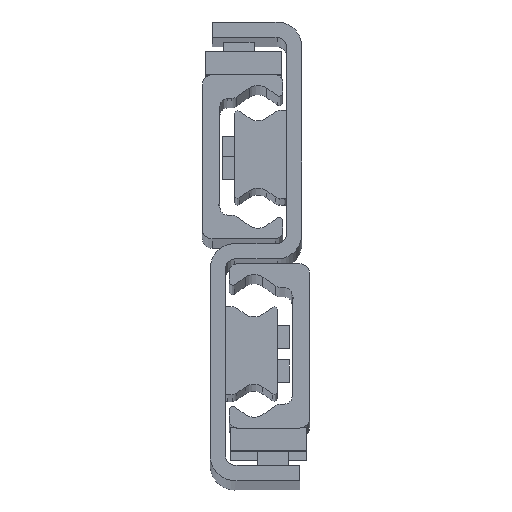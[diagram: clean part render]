
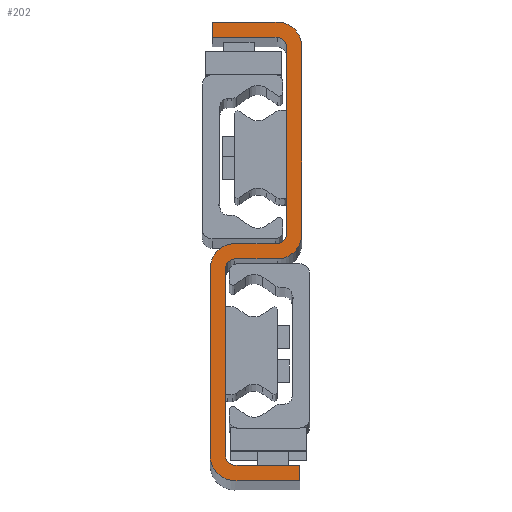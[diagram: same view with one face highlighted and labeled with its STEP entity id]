
A CAD part, top view. The second image highlights one B-rep face of the part: STEP entity #202.
In plain terms, the highlighted planar face has unit normal (0, 0, 1).
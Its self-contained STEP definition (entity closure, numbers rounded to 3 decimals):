
#202=ADVANCED_FACE('',(#705),#706,.T.);
#705=FACE_OUTER_BOUND('',#1515,.T.);
#706=PLANE('',#1516);
#1515=EDGE_LOOP('',(#3021,#3022,#3023,#3024,#3025,#3026,#3027,#3028,#3029,#3030,#3031,#3032,#3033,#3034,#3035,#3036,#3037,#3038,#3039,#3040));
#1516=AXIS2_PLACEMENT_3D('',#3041,#3042,#3043);
#3021=ORIENTED_EDGE('',*,*,#5269,.F.);
#3022=ORIENTED_EDGE('',*,*,#5327,.F.);
#3023=ORIENTED_EDGE('',*,*,#5324,.F.);
#3024=ORIENTED_EDGE('',*,*,#5321,.F.);
#3025=ORIENTED_EDGE('',*,*,#5318,.F.);
#3026=ORIENTED_EDGE('',*,*,#5315,.F.);
#3027=ORIENTED_EDGE('',*,*,#5312,.F.);
#3028=ORIENTED_EDGE('',*,*,#5309,.F.);
#3029=ORIENTED_EDGE('',*,*,#5306,.F.);
#3030=ORIENTED_EDGE('',*,*,#5303,.F.);
#3031=ORIENTED_EDGE('',*,*,#5300,.F.);
#3032=ORIENTED_EDGE('',*,*,#5297,.F.);
#3033=ORIENTED_EDGE('',*,*,#5294,.F.);
#3034=ORIENTED_EDGE('',*,*,#5291,.F.);
#3035=ORIENTED_EDGE('',*,*,#5288,.F.);
#3036=ORIENTED_EDGE('',*,*,#5285,.F.);
#3037=ORIENTED_EDGE('',*,*,#5282,.F.);
#3038=ORIENTED_EDGE('',*,*,#5279,.F.);
#3039=ORIENTED_EDGE('',*,*,#5276,.F.);
#3040=ORIENTED_EDGE('',*,*,#5273,.F.);
#3041=CARTESIAN_POINT('',(-14.,26.,2133.0));
#3042=DIRECTION('',(0.0,0.0,1.0));
#3043=DIRECTION('',(1.0,0.0,0.0));
#5269=EDGE_CURVE('',#6387,#6388,#6389,.T.);
#5273=EDGE_CURVE('',#6388,#6395,#6396,.T.);
#5276=EDGE_CURVE('',#6395,#6400,#6401,.T.);
#5279=EDGE_CURVE('',#6400,#6405,#6406,.T.);
#5282=EDGE_CURVE('',#6405,#6410,#6411,.T.);
#5285=EDGE_CURVE('',#6410,#6415,#6416,.T.);
#5288=EDGE_CURVE('',#6415,#6420,#6421,.T.);
#5291=EDGE_CURVE('',#6420,#6425,#6426,.T.);
#5294=EDGE_CURVE('',#6425,#6430,#6431,.T.);
#5297=EDGE_CURVE('',#6430,#6435,#6436,.T.);
#5300=EDGE_CURVE('',#6435,#6440,#6441,.T.);
#5303=EDGE_CURVE('',#6440,#6445,#6446,.T.);
#5306=EDGE_CURVE('',#6445,#6450,#6451,.T.);
#5309=EDGE_CURVE('',#6450,#6455,#6456,.T.);
#5312=EDGE_CURVE('',#6455,#6460,#6461,.T.);
#5315=EDGE_CURVE('',#6460,#6465,#6466,.T.);
#5318=EDGE_CURVE('',#6465,#6470,#6471,.T.);
#5321=EDGE_CURVE('',#6470,#6475,#6476,.T.);
#5324=EDGE_CURVE('',#6475,#6480,#6481,.T.);
#5327=EDGE_CURVE('',#6480,#6387,#6485,.T.);
#6387=VERTEX_POINT('',#8125);
#6388=VERTEX_POINT('',#8126);
#6389=LINE('',#8127,#8128);
#6395=VERTEX_POINT('',#8137);
#6396=CIRCLE('',#8138,2.5);
#6400=VERTEX_POINT('',#8143);
#6401=LINE('',#8144,#8145);
#6405=VERTEX_POINT('',#8151);
#6406=CIRCLE('',#8152,2.5);
#6410=VERTEX_POINT('',#8157);
#6411=LINE('',#8158,#8159);
#6415=VERTEX_POINT('',#8165);
#6416=LINE('',#8166,#8167);
#6420=VERTEX_POINT('',#8173);
#6421=LINE('',#8174,#8175);
#6425=VERTEX_POINT('',#8181);
#6426=CIRCLE('',#8182,6.5);
#6430=VERTEX_POINT('',#8187);
#6431=LINE('',#8188,#8189);
#6435=VERTEX_POINT('',#8195);
#6436=CIRCLE('',#8196,6.5);
#6440=VERTEX_POINT('',#8201);
#6441=LINE('',#8202,#8203);
#6445=VERTEX_POINT('',#8209);
#6446=CIRCLE('',#8210,2.5);
#6450=VERTEX_POINT('',#8215);
#6451=LINE('',#8216,#8217);
#6455=VERTEX_POINT('',#8223);
#6456=CIRCLE('',#8224,2.5);
#6460=VERTEX_POINT('',#8229);
#6461=LINE('',#8230,#8231);
#6465=VERTEX_POINT('',#8237);
#6466=LINE('',#8238,#8239);
#6470=VERTEX_POINT('',#8245);
#6471=LINE('',#8246,#8247);
#6475=VERTEX_POINT('',#8253);
#6476=CIRCLE('',#8254,6.5);
#6480=VERTEX_POINT('',#8259);
#6481=LINE('',#8260,#8261);
#6485=CIRCLE('',#8267,6.5);
#8125=CARTESIAN_POINT('',(-8.5,24.,2133.0));
#8126=CARTESIAN_POINT('',(-19.5,24.,2133.0));
#8127=CARTESIAN_POINT('',(-8.5,24.,2133.0));
#8128=VECTOR('',#10013,1.0);
#8137=CARTESIAN_POINT('',(-22.,21.5,2133.0));
#8138=AXIS2_PLACEMENT_3D('',#10017,#10018,#10019);
#8143=CARTESIAN_POINT('',(-22.,-27.5,2133.0));
#8144=CARTESIAN_POINT('',(-22.,-27.5,2133.0));
#8145=VECTOR('',#10024,1.0);
#8151=CARTESIAN_POINT('',(-19.5,-30.,2133.0));
#8152=AXIS2_PLACEMENT_3D('',#10027,#10028,#10029);
#8157=CARTESIAN_POINT('',(-2.5,-30.,2133.0));
#8158=CARTESIAN_POINT('',(-19.5,-30.,2133.0));
#8159=VECTOR('',#10034,1.0);
#8165=CARTESIAN_POINT('',(-2.5,-34.,2133.0));
#8166=CARTESIAN_POINT('',(-2.5,-34.,2133.0));
#8167=VECTOR('',#10037,1.0);
#8173=CARTESIAN_POINT('',(-19.5,-34.,2133.0));
#8174=CARTESIAN_POINT('',(-19.5,-34.,2133.0));
#8175=VECTOR('',#10040,1.0);
#8181=CARTESIAN_POINT('',(-26.,-27.5,2133.0));
#8182=AXIS2_PLACEMENT_3D('',#10043,#10044,#10045);
#8187=CARTESIAN_POINT('',(-26.,21.5,2133.0));
#8188=CARTESIAN_POINT('',(-26.,21.5,2133.0));
#8189=VECTOR('',#10050,1.0);
#8195=CARTESIAN_POINT('',(-19.5,28.,2133.0));
#8196=AXIS2_PLACEMENT_3D('',#10053,#10054,#10055);
#8201=CARTESIAN_POINT('',(-8.5,28.,2133.0));
#8202=CARTESIAN_POINT('',(-8.5,28.,2133.0));
#8203=VECTOR('',#10060,1.0);
#8209=CARTESIAN_POINT('',(-6.,30.5,2133.0));
#8210=AXIS2_PLACEMENT_3D('',#10063,#10064,#10065);
#8215=CARTESIAN_POINT('',(-6.,79.5,2133.0));
#8216=CARTESIAN_POINT('',(-6.,79.5,2133.0));
#8217=VECTOR('',#10070,1.0);
#8223=CARTESIAN_POINT('',(-8.5,82.,2133.0));
#8224=AXIS2_PLACEMENT_3D('',#10073,#10074,#10075);
#8229=CARTESIAN_POINT('',(-25.5,82.,2133.0));
#8230=CARTESIAN_POINT('',(-25.5,82.,2133.0));
#8231=VECTOR('',#10080,1.0);
#8237=CARTESIAN_POINT('',(-25.5,86.,2133.0));
#8238=CARTESIAN_POINT('',(-25.5,86.,2133.0));
#8239=VECTOR('',#10083,1.0);
#8245=CARTESIAN_POINT('',(-8.5,86.,2133.0));
#8246=CARTESIAN_POINT('',(-25.5,86.,2133.0));
#8247=VECTOR('',#10086,1.0);
#8253=CARTESIAN_POINT('',(-2.,79.5,2133.0));
#8254=AXIS2_PLACEMENT_3D('',#10089,#10090,#10091);
#8259=CARTESIAN_POINT('',(-2.,30.5,2133.0));
#8260=CARTESIAN_POINT('',(-2.,79.5,2133.0));
#8261=VECTOR('',#10096,1.0);
#8267=AXIS2_PLACEMENT_3D('',#10099,#10100,#10101);
#10013=DIRECTION('',(-1.0,0.,0.0));
#10017=CARTESIAN_POINT('',(-19.5,21.5,2133.0));
#10018=DIRECTION('',(0.0,0.0,1.0));
#10019=DIRECTION('',(1.0,0.0,0.0));
#10024=DIRECTION('',(-0.0,-1.0,-0.0));
#10027=CARTESIAN_POINT('',(-19.5,-27.5,2133.0));
#10028=DIRECTION('',(0.0,0.0,1.0));
#10029=DIRECTION('',(1.0,0.0,0.0));
#10034=DIRECTION('',(1.,0.,0.0));
#10037=DIRECTION('',(-0.0,-1.0,-0.0));
#10040=DIRECTION('',(-1.,0.,-0.0));
#10043=CARTESIAN_POINT('',(-19.5,-27.5,2133.0));
#10044=DIRECTION('',(0.0,0.0,-1.0));
#10045=DIRECTION('',(1.0,0.0,0.0));
#10050=DIRECTION('',(0.0,1.0,0.0));
#10053=CARTESIAN_POINT('',(-19.5,21.5,2133.0));
#10054=DIRECTION('',(0.0,0.0,-1.0));
#10055=DIRECTION('',(1.0,0.0,0.0));
#10060=DIRECTION('',(1.0,0.,0.0));
#10063=CARTESIAN_POINT('',(-8.5,30.5,2133.0));
#10064=DIRECTION('',(0.0,0.0,1.0));
#10065=DIRECTION('',(1.0,0.0,0.0));
#10070=DIRECTION('',(0.0,1.0,0.0));
#10073=CARTESIAN_POINT('',(-8.5,79.5,2133.0));
#10074=DIRECTION('',(0.0,0.0,1.0));
#10075=DIRECTION('',(1.0,0.0,0.0));
#10080=DIRECTION('',(-1.,0.,0.0));
#10083=DIRECTION('',(0.0,1.0,0.0));
#10086=DIRECTION('',(1.,0.,0.0));
#10089=CARTESIAN_POINT('',(-8.5,79.5,2133.0));
#10090=DIRECTION('',(0.0,0.0,-1.0));
#10091=DIRECTION('',(1.0,0.0,0.0));
#10096=DIRECTION('',(0.,-1.0,0.0));
#10099=CARTESIAN_POINT('',(-8.5,30.5,2133.0));
#10100=DIRECTION('',(0.0,0.0,-1.0));
#10101=DIRECTION('',(1.0,0.0,0.0));
